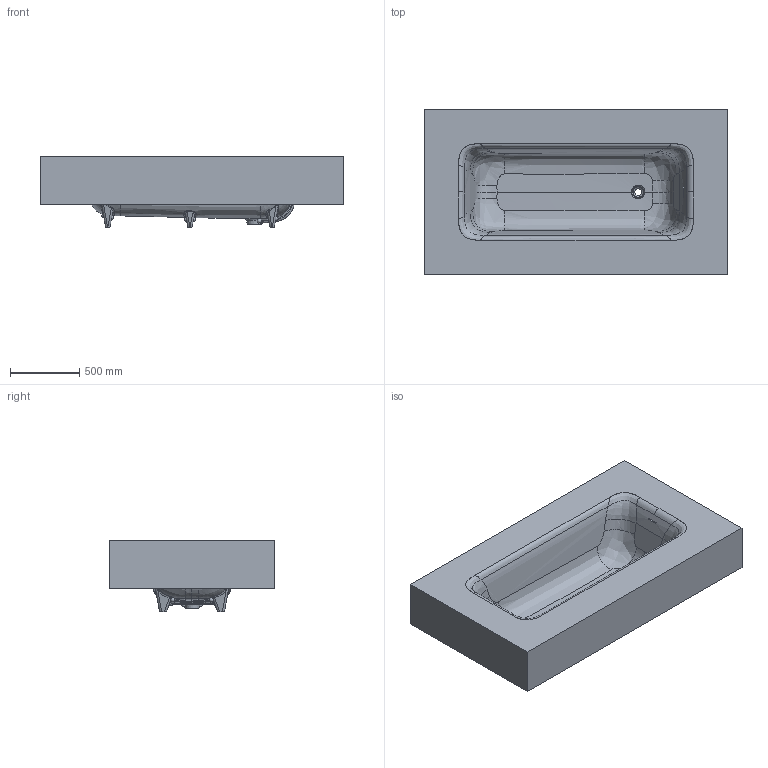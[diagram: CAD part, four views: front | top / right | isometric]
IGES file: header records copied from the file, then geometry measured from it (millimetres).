
Start section: Data from Parasolid IGES Translator 22.0.50, Copyright(c) 2006 Siemens P LM Software. All Rights Reserved.
Global section: file name: noorth-bathtub-H52 D75-120 W175-220_5669.igs; native system: By Siemens PLM Incorporated; preprocessor: XPlus GENERIC/IGES 22.0.50; author: Noname; organization: Noname; date: 20250706.162542; units: metre
Bounding box: 2200 x 1200 x 520.01 mm (x, y, z)
Volume: 101087870.5 mm3; surface area: 12618842.1 mm2
Topology: 2 solids, 2 shells, 494 faces, 1258 edges, 735 vertices
Faces by surface type: bspline 360, plane 70, cylinder 37, sphere 22, cone 4, torus 1
Full cylindrical faces by diameter (mm): 50 x1
